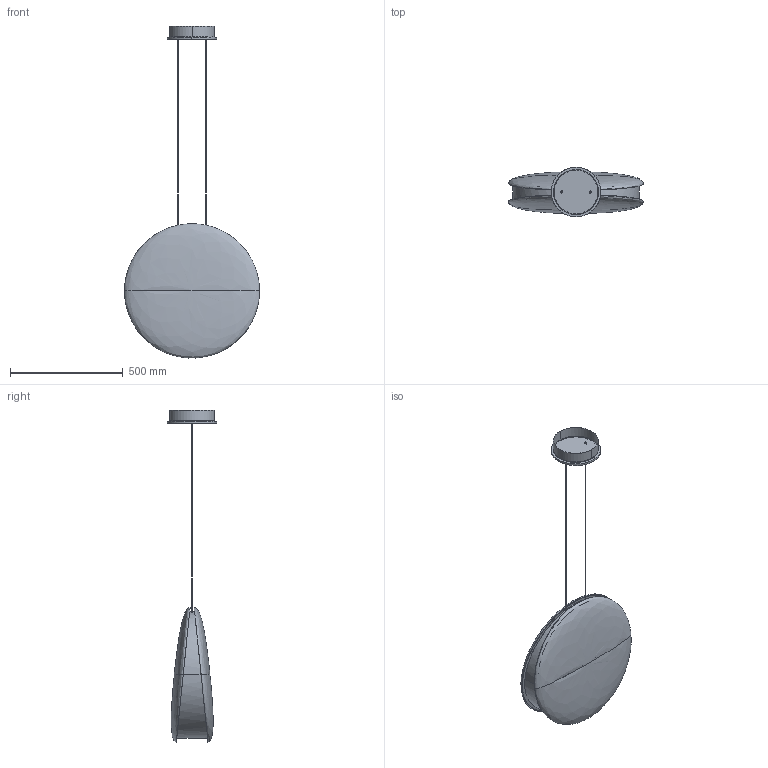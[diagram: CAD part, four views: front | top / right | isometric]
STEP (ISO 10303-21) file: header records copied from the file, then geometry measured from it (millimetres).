
FILE_DESCRIPTION(/* description */ (''),/* implementation_level */ '2;1');
FILE_NAME(/* name */ 'Macaron pendant 600 STEP',/* time_stamp */ '2024-12-23T14:42:49+01:00',/* author */ (''),/* organization */ (''),/* preprocessor_version */ 'ST-DEVELOPER v16.5',/* originating_system */ 'Rhino 7.37',/* authorisation */ '');
FILE_SCHEMA (('CONFIG_CONTROL_DESIGN'));
Length unit declared in the file: millimetre
Products named in the file (1): Document
Bounding box: 599.95 x 220 x 1474.99 mm (x, y, z)
Volume: 8326811.6 mm3; surface area: 2819743 mm2
Topology: 11 solids, 11 shells, 90 faces, 176 edges, 104 vertices
Faces by surface type: plane 36, cylinder 30, bspline 24
Entity records: 3896 total; most frequent: CARTESIAN_POINT 2652, ORIENTED_EDGE 336, EDGE_CURVE 168, VERTEX_POINT 104, EDGE_LOOP 96, ADVANCED_FACE 90, FACE_OUTER_BOUND 90, DIRECTION 70
